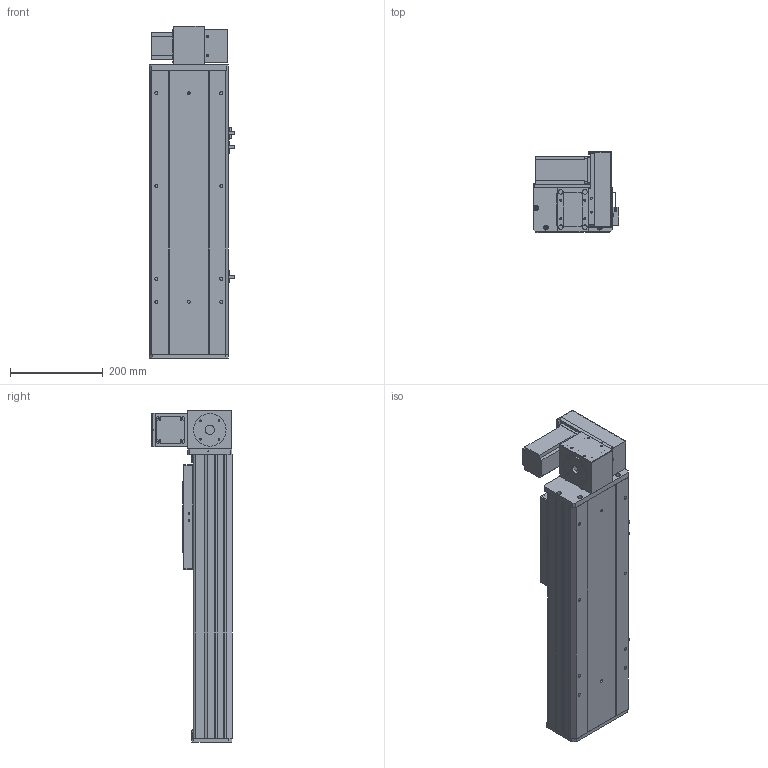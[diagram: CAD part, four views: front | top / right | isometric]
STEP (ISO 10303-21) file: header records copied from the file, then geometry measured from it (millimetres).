
FILE_DESCRIPTION (( 'STEP AP203' ), '1' );
FILE_NAME ('Y170CB-D105-S300-UR-P400W.STEP', '2020-02-20T03:41:36', ( '微软用户' ), ( '微软中国' ), 'SwSTEP 2.0', 'SolidWorks 2017', '' );
FILE_SCHEMA (( 'CONFIG_CONTROL_DESIGN' ));
Length unit declared in the file: millimetre
Products named in the file (18): 70B喘謫眊----; 70C-雄赽釱-奻-; 70CB--耜裔; B-源倛裔啣; Y170CB-D105-S300-UR-P400W; 0C--雄赽釱俋欶-170; 0B-萇儂楊擘啣; 70CB-詩湍--; san松下电机400不带刹车----; Y100-135俋离換覜ん--; 70CB-掛极-; Y170CB-陔俋离換覜結え---; --70CB --喘謫眊楊擘啣-; Y1埴倛裔; 70CB-耜裔啣-; 17B-耜蚾蟀諉啣----; 70C--詩湍揤踡え-; 00B-俋欶BM--163
Assembly tree (21 placements, depth 2):
  Y170CB-D105-S300-UR-P400W
    B-源倛裔啣
    0B-萇儂楊擘啣
    san松下电机400不带刹车----
    70CB-掛极-
    --70CB --喘謫眊楊擘啣-
    70CB-耜裔啣-  x2
    70C--詩湍揤踡え-  x2
    70CB--耜裔
    70C-雄赽釱-奻-
    0C--雄赽釱俋欶-170
    70CB-詩湍--
    Y100-135俋离換覜ん--  x3
    Y170CB-陔俋离換覜結え---
    Y1埴倛裔
    17B-耜蚾蟀諉啣----
    00B-俋欶BM--163
    70B喘謫眊----
Bounding box: 183.5 x 174 x 716 mm (x, y, z)
Volume: 3782777.3 mm3; surface area: 1340469.7 mm2
Topology: 21 solids, 21 shells, 983 faces, 2621 edges, 1738 vertices
Faces by surface type: cylinder 497, plane 462, cone 24
Entity records: 31160 total; most frequent: CARTESIAN_POINT 5676, DIRECTION 5066, ORIENTED_EDGE 4724, EDGE_CURVE 2362, AXIS2_PLACEMENT_3D 1848, VERTEX_POINT 1568, VECTOR 1370, LINE 1370
